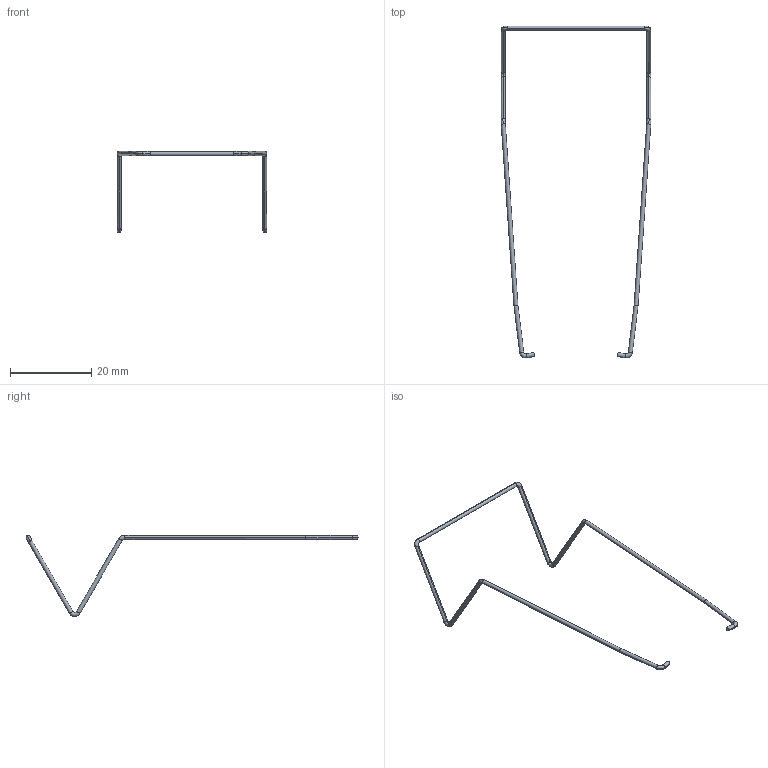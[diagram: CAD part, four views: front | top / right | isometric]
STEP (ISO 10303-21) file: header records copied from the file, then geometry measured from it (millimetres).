
FILE_DESCRIPTION (( 'STEP AP214' ), '1' );
FILE_NAME ('HF-33.STEP', '2024-04-17T13:10:50', ( '' ), ( '' ), 'SwSTEP 2.0', 'SolidWorks 2022', '' );
FILE_SCHEMA (( 'AUTOMOTIVE_DESIGN' ));
Length unit declared in the file: millimetre
Products named in the file (1): HF-33
Bounding box: 36.8 x 81.5 x 19.9 mm (x, y, z)
Volume: 192.2 mm3; surface area: 770.4 mm2
Topology: 1 solids, 1 shells, 44 faces, 102 edges, 60 vertices
Faces by surface type: cylinder 22, torus 20, plane 2
Entity records: 1308 total; most frequent: DIRECTION 272, CARTESIAN_POINT 207, ORIENTED_EDGE 204, AXIS2_PLACEMENT_3D 125, EDGE_CURVE 102, CIRCLE 80, VERTEX_POINT 60, ADVANCED_FACE 44
